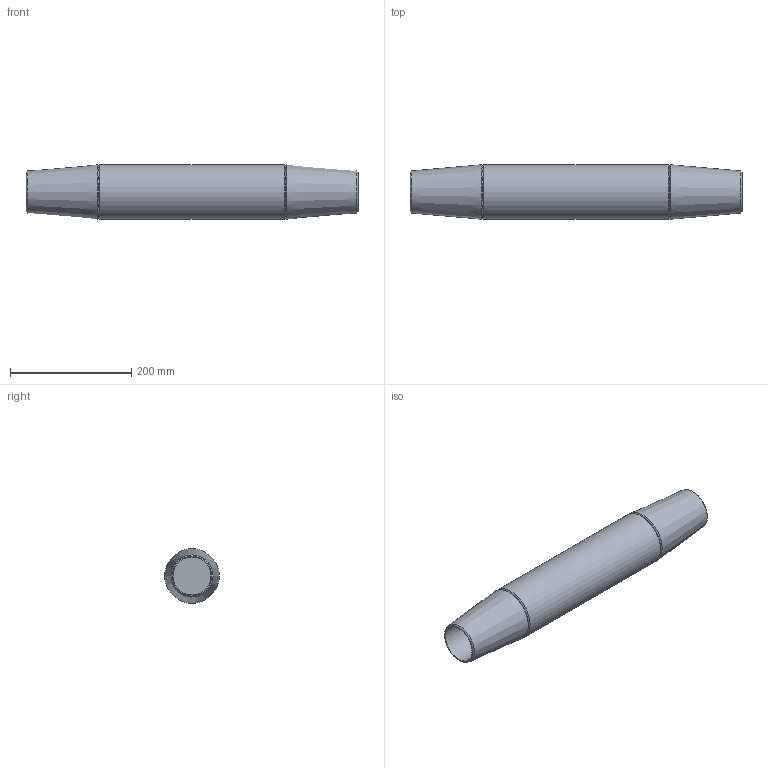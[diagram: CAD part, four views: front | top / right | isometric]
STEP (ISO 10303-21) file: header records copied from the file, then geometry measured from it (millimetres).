
FILE_DESCRIPTION(/* description */ (''),/* implementation_level */ '2;1');
FILE_NAME(/* name */ 'G:\Engineering\700 CAD\Internet-PX-1-step-igs-dxf\520-MUF-Arbeitsdateien\520-060-MUF.stp',/* time_stamp */ '2020-06-30T13:19:29+02:00',/* author */ ('schwarz'),/* organization */ (''),/* preprocessor_version */ 'ST-DEVELOPER v16.1',/* originating_system */ 'Autodesk Inventor 2016',/* authorisation */ '');
FILE_SCHEMA (('AUTOMOTIVE_DESIGN { 1 0 10303 214 3 1 1 }'));
Length unit declared in the file: centimetre
Products named in the file (1): Zusammenbau Muffe 520 060 Kunde
Bounding box: 547 x 90 x 90 mm (x, y, z)
Volume: 2601734.7 mm3; surface area: 190011.8 mm2
Topology: 1 solids, 1 shells, 15 faces, 25 edges, 14 vertices
Faces by surface type: cone 8, plane 4, cylinder 3
Full cylindrical faces by diameter (mm): 62.5 x2, 90 x1
Entity records: 347 total; most frequent: DIRECTION 60, CARTESIAN_POINT 44, AXIS2_PLACEMENT_3D 30, EDGE_LOOP 28, ORIENTED_EDGE 28, STYLED_ITEM 16, FACE_OUTER_BOUND 15, ADVANCED_FACE 15
